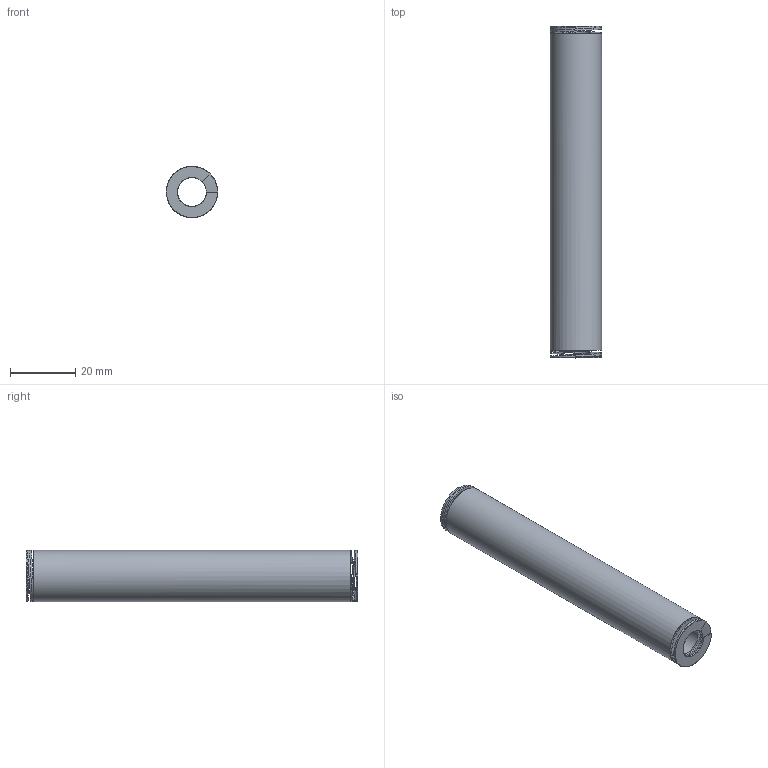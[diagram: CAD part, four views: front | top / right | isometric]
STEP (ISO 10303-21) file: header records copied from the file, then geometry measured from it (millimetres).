
FILE_DESCRIPTION(/* description */ ('Max 50% | 51,0 | 204'),/* implementation_level */ '2;1');
FILE_NAME(/* name */ '1L16101.step',/* time_stamp */ '2026-10-07T11:01:59+02:00',/* author */ ('1L'),/* organization */ ('3,4x1,2 prostokatny'),/* preprocessor_version */ 'ST-DEVELOPER v20.1',/* originating_system */ 'Autodesk Inventor 2026',/* authorisation */ '4,0');
FILE_SCHEMA (('AUTOMOTIVE_DESIGN { 1 0 10303 214 3 1 1 }'));
Length unit declared in the file: millimetre
Products named in the file (1): 1L16101
Bounding box: 15.72 x 102 x 15.72 mm (x, y, z)
Volume: 13175 mm3; surface area: 8802.5 mm2
Topology: 2 solids, 2 shells, 23 faces, 74 edges, 45 vertices
Faces by surface type: bspline 14, plane 7, cylinder 2
Full cylindrical faces by diameter (mm): 8.909 x1, 15.711 x1
Entity records: 2598 total; most frequent: CARTESIAN_POINT 2122, ORIENTED_EDGE 120, EDGE_CURVE 60, B_SPLINE_CURVE_WITH_KNOTS 48, VERTEX_POINT 38, DIRECTION 34, EDGE_LOOP 26, FACE_OUTER_BOUND 22
